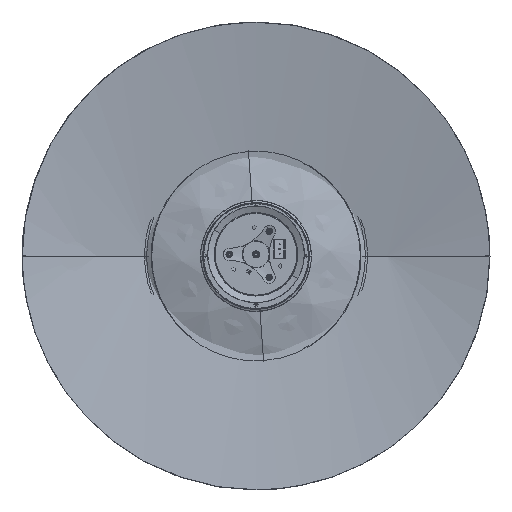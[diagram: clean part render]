
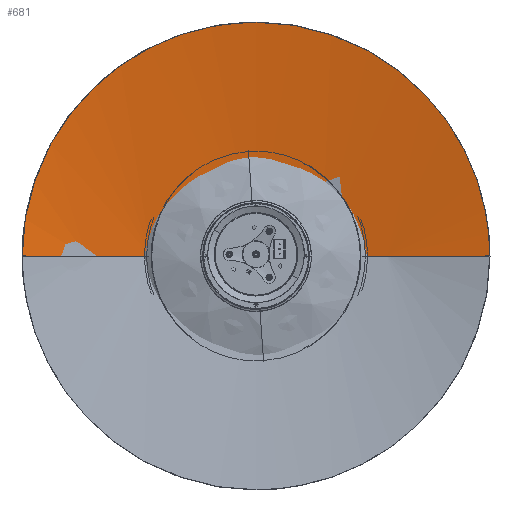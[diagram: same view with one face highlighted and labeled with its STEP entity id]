
A CAD part, top view. The second image highlights one B-rep face of the part: STEP entity #681.
In plain terms, the highlighted free-form (B-spline) face has degree [2, 2] with [5, 9] control points.
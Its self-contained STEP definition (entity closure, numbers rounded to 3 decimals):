
#681=ADVANCED_FACE('',(#2110),#22713,.T.);
#2110=FACE_OUTER_BOUND('',#3555,.T.);
#3555=EDGE_LOOP('',(#5961,#5962,#5963,#5964));
#5961=ORIENTED_EDGE('',*,*,#12842,.F.);
#5962=ORIENTED_EDGE('',*,*,#12851,.F.);
#5963=ORIENTED_EDGE('',*,*,#12846,.F.);
#5964=ORIENTED_EDGE('',*,*,#12841,.F.);
#12841=EDGE_CURVE('',#20049,#20050,#18462,.T.);
#12842=EDGE_CURVE('',#20051,#20049,#18463,.T.);
#12846=EDGE_CURVE('',#20050,#20052,#18467,.T.);
#12851=EDGE_CURVE('',#20052,#20051,#18470,.T.);
#18462=(
BOUNDED_CURVE()
B_SPLINE_CURVE(2,(#31228,#31229,#31230),.UNSPECIFIED.,.F.,.F.)
B_SPLINE_CURVE_WITH_KNOTS((3,3),(-488.749,0.),.UNSPECIFIED.)
CURVE()
GEOMETRIC_REPRESENTATION_ITEM()
RATIONAL_B_SPLINE_CURVE((1.,0.99,1.))
REPRESENTATION_ITEM('')
);
#18463=(
BOUNDED_CURVE()
B_SPLINE_CURVE(2,(#31231,#31232,#31233),.UNSPECIFIED.,.F.,.F.)
B_SPLINE_CURVE_WITH_KNOTS((3,3),(-488.749,0.),.UNSPECIFIED.)
CURVE()
GEOMETRIC_REPRESENTATION_ITEM()
RATIONAL_B_SPLINE_CURVE((1.,0.99,1.))
REPRESENTATION_ITEM('')
);
#18467=(
BOUNDED_CURVE()
B_SPLINE_CURVE(2,(#31243,#31244,#31245),.UNSPECIFIED.,.F.,.F.)
B_SPLINE_CURVE_WITH_KNOTS((3,3),(0.,757.124),.UNSPECIFIED.)
CURVE()
GEOMETRIC_REPRESENTATION_ITEM()
RATIONAL_B_SPLINE_CURVE((1.,0.707,1.))
REPRESENTATION_ITEM('')
);
#18470=(
BOUNDED_CURVE()
B_SPLINE_CURVE(2,(#31256,#31257,#31258),.UNSPECIFIED.,.F.,.F.)
B_SPLINE_CURVE_WITH_KNOTS((3,3),(0.,757.124),.UNSPECIFIED.)
CURVE()
GEOMETRIC_REPRESENTATION_ITEM()
RATIONAL_B_SPLINE_CURVE((1.,0.707,1.))
REPRESENTATION_ITEM('')
);
#20049=VERTEX_POINT('',#31218);
#20050=VERTEX_POINT('',#31219);
#20051=VERTEX_POINT('',#31220);
#20052=VERTEX_POINT('',#31221);
#22713=(
BOUNDED_SURFACE()
B_SPLINE_SURFACE(2,2,((#31002,#31003,#31004,#31005,#31006,#31007,#31008,
#31009,#31010),(#31011,#31012,#31013,#31014,#31015,#31016,#31017,#31018,
#31019),(#31020,#31021,#31022,#31023,#31024,#31025,#31026,#31027,#31028),
(#31029,#31030,#31031,#31032,#31033,#31034,#31035,#31036,#31037),(#31038,
#31039,#31040,#31041,#31042,#31043,#31044,#31045,#31046)),.UNSPECIFIED.,
 .F.,.F.,.F.)
B_SPLINE_SURFACE_WITH_KNOTS((3,2,3),(3,2,2,2,3),(0.,2661.647,5323.294),
(0.,2661.647,5323.294,7984.941,10646.588),
 .UNSPECIFIED.)
GEOMETRIC_REPRESENTATION_ITEM()
RATIONAL_B_SPLINE_SURFACE(((1.,0.707,1.,0.707,1.,
0.707,1.,0.707,1.),(0.707,0.5,0.707,
0.5,0.707,0.5,0.707,0.5,0.707),(1.,
0.707,1.,0.707,1.,0.707,1.,0.707,
1.),(0.707,0.5,0.707,0.5,0.707,0.5,
0.707,0.5,0.707),(1.,0.707,1.,0.707,
1.,0.707,1.,0.707,1.)))
REPRESENTATION_ITEM('')
SURFACE()
);
#31002=CARTESIAN_POINT('',(-4.814,1696.928,1805.237));
#31003=CARTESIAN_POINT('',(-4.814,1696.928,1805.237));
#31004=CARTESIAN_POINT('',(-4.814,1696.928,1805.237));
#31005=CARTESIAN_POINT('',(-4.814,1696.928,1805.237));
#31006=CARTESIAN_POINT('',(-4.814,1696.928,1805.237));
#31007=CARTESIAN_POINT('',(-4.814,1696.928,1805.237));
#31008=CARTESIAN_POINT('',(-4.814,1696.928,1805.237));
#31009=CARTESIAN_POINT('',(-4.814,1696.928,1805.237));
#31010=CARTESIAN_POINT('',(-4.814,1696.928,1805.237));
#31011=CARTESIAN_POINT('',(-1699.271,1696.928,1805.237));
#31012=CARTESIAN_POINT('',(-1699.271,1696.928,110.78));
#31013=CARTESIAN_POINT('',(-4.814,1696.928,110.78));
#31014=CARTESIAN_POINT('',(1689.643,1696.928,110.78));
#31015=CARTESIAN_POINT('',(1689.643,1696.928,1805.237));
#31016=CARTESIAN_POINT('',(1689.643,1696.928,3499.694));
#31017=CARTESIAN_POINT('',(-4.814,1696.928,3499.694));
#31018=CARTESIAN_POINT('',(-1699.271,1696.928,3499.694));
#31019=CARTESIAN_POINT('',(-1699.271,1696.928,1805.237));
#31020=CARTESIAN_POINT('',(-1699.271,2.471,1805.237));
#31021=CARTESIAN_POINT('',(-1699.271,2.471,110.78));
#31022=CARTESIAN_POINT('',(-4.814,2.471,110.78));
#31023=CARTESIAN_POINT('',(1689.643,2.471,110.78));
#31024=CARTESIAN_POINT('',(1689.643,2.471,1805.237));
#31025=CARTESIAN_POINT('',(1689.643,2.471,3499.694));
#31026=CARTESIAN_POINT('',(-4.814,2.471,3499.694));
#31027=CARTESIAN_POINT('',(-1699.271,2.471,3499.694));
#31028=CARTESIAN_POINT('',(-1699.271,2.471,1805.237));
#31029=CARTESIAN_POINT('',(-1699.271,-1691.986,1805.237));
#31030=CARTESIAN_POINT('',(-1699.271,-1691.986,110.78));
#31031=CARTESIAN_POINT('',(-4.814,-1691.986,110.78));
#31032=CARTESIAN_POINT('',(1689.643,-1691.986,110.78));
#31033=CARTESIAN_POINT('',(1689.643,-1691.986,1805.237));
#31034=CARTESIAN_POINT('',(1689.643,-1691.986,3499.694));
#31035=CARTESIAN_POINT('',(-4.814,-1691.986,3499.694));
#31036=CARTESIAN_POINT('',(-1699.271,-1691.986,3499.694));
#31037=CARTESIAN_POINT('',(-1699.271,-1691.986,1805.237));
#31038=CARTESIAN_POINT('',(-4.814,-1691.986,1805.237));
#31039=CARTESIAN_POINT('',(-4.814,-1691.986,1805.237));
#31040=CARTESIAN_POINT('',(-4.814,-1691.986,1805.237));
#31041=CARTESIAN_POINT('',(-4.814,-1691.986,1805.237));
#31042=CARTESIAN_POINT('',(-4.814,-1691.986,1805.237));
#31043=CARTESIAN_POINT('',(-4.814,-1691.986,1805.237));
#31044=CARTESIAN_POINT('',(-4.814,-1691.986,1805.237));
#31045=CARTESIAN_POINT('',(-4.814,-1691.986,1805.237));
#31046=CARTESIAN_POINT('',(-4.814,-1691.986,1805.237));
#31218=CARTESIAN_POINT('',(-4.814,2.471,110.78));
#31219=CARTESIAN_POINT('',(-486.814,2.471,180.78));
#31220=CARTESIAN_POINT('',(477.186,2.471,180.78));
#31221=CARTESIAN_POINT('',(-4.814,484.471,180.78));
#31228=CARTESIAN_POINT('',(-4.814,2.471,110.78));
#31229=CARTESIAN_POINT('',(-250.897,2.471,110.78));
#31230=CARTESIAN_POINT('',(-486.814,2.471,180.78));
#31231=CARTESIAN_POINT('',(477.186,2.471,180.78));
#31232=CARTESIAN_POINT('',(241.269,2.471,110.78));
#31233=CARTESIAN_POINT('',(-4.814,2.471,110.78));
#31243=CARTESIAN_POINT('',(-486.814,2.471,180.78));
#31244=CARTESIAN_POINT('',(-486.814,484.471,180.78));
#31245=CARTESIAN_POINT('',(-4.814,484.471,180.78));
#31256=CARTESIAN_POINT('',(-4.814,484.471,180.78));
#31257=CARTESIAN_POINT('',(477.186,484.471,180.78));
#31258=CARTESIAN_POINT('',(477.186,2.471,180.78));
